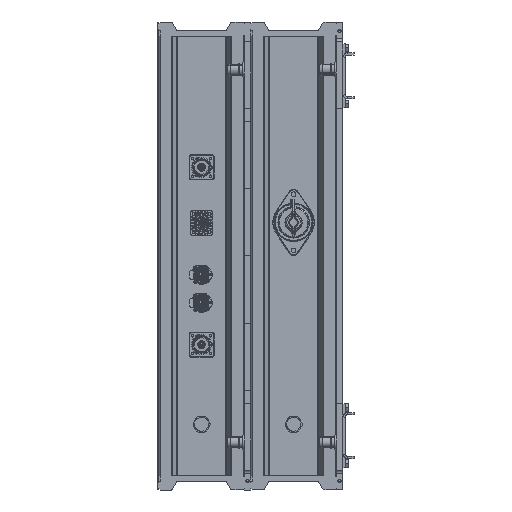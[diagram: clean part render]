
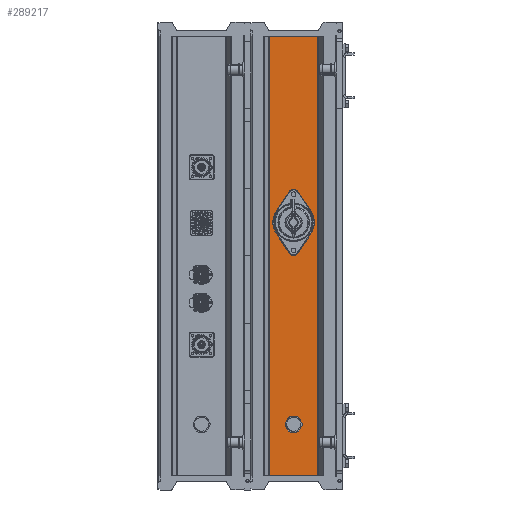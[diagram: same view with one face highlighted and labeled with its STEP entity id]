
A CAD part, left-side view. The second image highlights one B-rep face of the part: STEP entity #289217.
In plain terms, the highlighted planar face has unit normal (-1, 0, 0).
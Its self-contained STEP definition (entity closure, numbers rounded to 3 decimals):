
#918 = CARTESIAN_POINT ( 'NONE',  ( -1142.5, 81.956, 4.46 ) ) ;
#1755 = DIRECTION ( 'NONE',  ( -1., 0., 0. ) ) ;
#12885 = CARTESIAN_POINT ( 'NONE',  ( -1142.5, 74.5, 109.5 ) ) ;
#15743 = FACE_BOUND ( 'NONE', #270316, .T. ) ;
#16281 = ORIENTED_EDGE ( 'NONE', *, *, #172006, .T. ) ;
#19024 = VERTEX_POINT ( 'NONE', #283673 ) ;
#26600 = CARTESIAN_POINT ( 'NONE',  ( -1142.5, 74.5, 9.5 ) ) ;
#26770 = CARTESIAN_POINT ( 'NONE',  ( -1142.5, 117.685, 391.5 ) ) ;
#37729 = VERTEX_POINT ( 'NONE', #172011 ) ;
#37767 = VERTEX_POINT ( 'NONE', #26770 ) ;
#42768 = VECTOR ( 'NONE', #148550, 1000. ) ;
#45851 = EDGE_CURVE ( 'NONE', #284937, #49574, #97008, .T. ) ;
#46309 = EDGE_CURVE ( 'NONE', #37767, #114064, #274364, .T. ) ;
#49574 = VERTEX_POINT ( 'NONE', #51751 ) ;
#49858 = EDGE_CURVE ( 'NONE', #37729, #93888, #51167, .T. ) ;
#51167 = LINE ( 'NONE', #295167, #42768 ) ;
#51751 = CARTESIAN_POINT ( 'NONE',  ( -1142.5, 67.044, 114.54 ) ) ;
#54088 = EDGE_LOOP ( 'NONE', ( #222577, #16281, #261531, #247201 ) ) ;
#54391 = ORIENTED_EDGE ( 'NONE', *, *, #283163, .F. ) ;
#55552 = CARTESIAN_POINT ( 'NONE',  ( -1142.5, 105.154, 38.78 ) ) ;
#58529 = VERTEX_POINT ( 'NONE', #122464 ) ;
#60410 = ORIENTED_EDGE ( 'NONE', *, *, #49858, .F. ) ;
#61515 = EDGE_CURVE ( 'NONE', #58529, #19024, #235988, .T. ) ;
#61775 = VECTOR ( 'NONE', #168514, 1000. ) ;
#71627 = LINE ( 'NONE', #196142, #247000 ) ;
#73086 = DIRECTION ( 'NONE',  ( 0., 0.56, 0.828 ) ) ;
#74716 = CIRCLE ( 'NONE', #237667, 37. ) ;
#84635 = CARTESIAN_POINT ( 'NONE',  ( -1142.5, 31.315, -392.5 ) ) ;
#93888 = VERTEX_POINT ( 'NONE', #122992 ) ;
#95327 = DIRECTION ( 'NONE',  ( 0., 0.56, -0.828 ) ) ;
#96914 = AXIS2_PLACEMENT_3D ( 'NONE', #26600, #149515, #246687 ) ;
#97008 = LINE ( 'NONE', #192806, #111109 ) ;
#97794 = EDGE_CURVE ( 'NONE', #118972, #265723, #199967, .T. ) ;
#100050 = CARTESIAN_POINT ( 'NONE',  ( -1142.5, 105.154, 80.22 ) ) ;
#101156 = EDGE_CURVE ( 'NONE', #313944, #168861, #128974, .T. ) ;
#101895 = DIRECTION ( 'NONE',  ( 0., -0.56, -0.828 ) ) ;
#107800 = DIRECTION ( 'NONE',  ( 0., 0., -1. ) ) ;
#108860 = DIRECTION ( 'NONE',  ( -1., 0., 0. ) ) ;
#109036 = DIRECTION ( 'NONE',  ( -1., 0., 0. ) ) ;
#111109 = VECTOR ( 'NONE', #73086, 1000. ) ;
#112322 = DIRECTION ( 'NONE',  ( 0., 1., 0. ) ) ;
#113162 = CARTESIAN_POINT ( 'NONE',  ( -1142.5, 1872.341, -402.5 ) ) ;
#114064 = VERTEX_POINT ( 'NONE', #155116 ) ;
#117294 = VERTEX_POINT ( 'NONE', #306417 ) ;
#118972 = VERTEX_POINT ( 'NONE', #84635 ) ;
#122199 = EDGE_CURVE ( 'NONE', #93888, #284937, #260672, .T. ) ;
#122464 = CARTESIAN_POINT ( 'NONE',  ( -1142.5, 105.154, 80.22 ) ) ;
#122992 = CARTESIAN_POINT ( 'NONE',  ( -1142.5, 43.846, 38.78 ) ) ;
#128067 = CARTESIAN_POINT ( 'NONE',  ( -1142.5, 74.5, 59.5 ) ) ;
#128974 = LINE ( 'NONE', #55552, #226568 ) ;
#129230 = DIRECTION ( 'NONE',  ( 0., -1., 0. ) ) ;
#129524 = VECTOR ( 'NONE', #107800, 1000. ) ;
#135468 = DIRECTION ( 'NONE',  ( 0., 1., 0. ) ) ;
#137009 = FACE_BOUND ( 'NONE', #228547, .T. ) ;
#137318 = AXIS2_PLACEMENT_3D ( 'NONE', #213792, #109036, #206416 ) ;
#137741 = DIRECTION ( 'NONE',  ( -1., 0., 0. ) ) ;
#138580 = FACE_OUTER_BOUND ( 'NONE', #54088, .T. ) ;
#139312 = CARTESIAN_POINT ( 'NONE',  ( -1142.5, 74.5, 59.5 ) ) ;
#148550 = DIRECTION ( 'NONE',  ( 0., -0.56, 0.828 ) ) ;
#148657 = CARTESIAN_POINT ( 'NONE',  ( -1142.5, 74.5, 59.5 ) ) ;
#149515 = DIRECTION ( 'NONE',  ( -1., 0., 0. ) ) ;
#149805 = DIRECTION ( 'NONE',  ( 0., 0., 1. ) ) ;
#155116 = CARTESIAN_POINT ( 'NONE',  ( -1142.5, 31.315, 391.5 ) ) ;
#158332 = DIRECTION ( 'NONE',  ( 0., -1., 0. ) ) ;
#159389 = VERTEX_POINT ( 'NONE', #244152 ) ;
#163477 = AXIS2_PLACEMENT_3D ( 'NONE', #113162, #164108, #135468 ) ;
#164108 = DIRECTION ( 'NONE',  ( 1., 0., 0. ) ) ;
#165359 = CARTESIAN_POINT ( 'NONE',  ( -1142.5, 1872.341, -392.5 ) ) ;
#167902 = CARTESIAN_POINT ( 'NONE',  ( -1142.5, 74.5, -300.5 ) ) ;
#168514 = DIRECTION ( 'NONE',  ( 0., 1., 0. ) ) ;
#168861 = VERTEX_POINT ( 'NONE', #918 ) ;
#172006 = EDGE_CURVE ( 'NONE', #37767, #265723, #233709, .T. ) ;
#172011 = CARTESIAN_POINT ( 'NONE',  ( -1142.5, 67.044, 4.46 ) ) ;
#172801 = ORIENTED_EDGE ( 'NONE', *, *, #45851, .F. ) ;
#176214 = VECTOR ( 'NONE', #95327, 1000. ) ;
#179026 = CARTESIAN_POINT ( 'NONE',  ( -1142.5, 43.846, 80.22 ) ) ;
#186135 = CARTESIAN_POINT ( 'NONE',  ( -1142.5, 117.685, -392.5 ) ) ;
#190306 = DIRECTION ( 'NONE',  ( 0., 1., 0. ) ) ;
#192806 = CARTESIAN_POINT ( 'NONE',  ( -1142.5, 43.846, 80.22 ) ) ;
#196142 = CARTESIAN_POINT ( 'NONE',  ( -1142.5, 31.315, 391.5 ) ) ;
#199967 = LINE ( 'NONE', #165359, #61775 ) ;
#205827 = CARTESIAN_POINT ( 'NONE',  ( -1142.5, 1872.341, 391.5 ) ) ;
#206416 = DIRECTION ( 'NONE',  ( 0., 1., 0. ) ) ;
#210106 = ORIENTED_EDGE ( 'NONE', *, *, #238596, .F. ) ;
#212029 = PLANE ( 'NONE',  #163477 ) ;
#213071 = ORIENTED_EDGE ( 'NONE', *, *, #61515, .F. ) ;
#213792 = CARTESIAN_POINT ( 'NONE',  ( -1142.5, 74.5, -300.5 ) ) ;
#215526 = AXIS2_PLACEMENT_3D ( 'NONE', #128067, #108860, #158332 ) ;
#216438 = CARTESIAN_POINT ( 'NONE',  ( -1142.5, 105.154, 38.78 ) ) ;
#218852 = DIRECTION ( 'NONE',  ( -1., 0., 0. ) ) ;
#220769 = CIRCLE ( 'NONE', #312464, 14. ) ;
#221247 = LINE ( 'NONE', #100050, #176214 ) ;
#222176 = EDGE_CURVE ( 'NONE', #118972, #114064, #71627, .T. ) ;
#222577 = ORIENTED_EDGE ( 'NONE', *, *, #46309, .F. ) ;
#223058 = EDGE_CURVE ( 'NONE', #19024, #313944, #74716, .T. ) ;
#225191 = AXIS2_PLACEMENT_3D ( 'NONE', #139312, #137741, #112322 ) ;
#226568 = VECTOR ( 'NONE', #101895, 1000. ) ;
#228346 = DIRECTION ( 'NONE',  ( 0., -1., 0. ) ) ;
#228478 = EDGE_CURVE ( 'NONE', #117294, #58529, #221247, .T. ) ;
#228547 = EDGE_LOOP ( 'NONE', ( #293882, #235075, #213071, #302571, #288213, #172801, #290996, #60410, #210106 ) ) ;
#233709 = LINE ( 'NONE', #259145, #129524 ) ;
#234076 = CIRCLE ( 'NONE', #137318, 14. ) ;
#235018 = VERTEX_POINT ( 'NONE', #310437 ) ;
#235075 = ORIENTED_EDGE ( 'NONE', *, *, #223058, .F. ) ;
#235988 = CIRCLE ( 'NONE', #215526, 37. ) ;
#237667 = AXIS2_PLACEMENT_3D ( 'NONE', #148657, #1755, #274525 ) ;
#238596 = EDGE_CURVE ( 'NONE', #168861, #37729, #290421, .T. ) ;
#244152 = CARTESIAN_POINT ( 'NONE',  ( -1142.5, 74.5, -286.5 ) ) ;
#246687 = DIRECTION ( 'NONE',  ( 0., 1., 0. ) ) ;
#247000 = VECTOR ( 'NONE', #149805, 1000. ) ;
#247201 = ORIENTED_EDGE ( 'NONE', *, *, #222176, .T. ) ;
#259145 = CARTESIAN_POINT ( 'NONE',  ( -1142.5, 117.685, -392.5 ) ) ;
#259188 = VECTOR ( 'NONE', #129230, 1000. ) ;
#260672 = CIRCLE ( 'NONE', #225191, 37. ) ;
#261531 = ORIENTED_EDGE ( 'NONE', *, *, #97794, .F. ) ;
#265723 = VERTEX_POINT ( 'NONE', #186135 ) ;
#270316 = EDGE_LOOP ( 'NONE', ( #54391, #292550 ) ) ;
#272546 = EDGE_CURVE ( 'NONE', #159389, #235018, #234076, .T. ) ;
#274364 = LINE ( 'NONE', #205827, #259188 ) ;
#274525 = DIRECTION ( 'NONE',  ( 0., -1., 0. ) ) ;
#277015 = CIRCLE ( 'NONE', #287237, 9. ) ;
#283163 = EDGE_CURVE ( 'NONE', #235018, #159389, #220769, .T. ) ;
#283673 = CARTESIAN_POINT ( 'NONE',  ( -1142.5, 111.5, 59.5 ) ) ;
#284937 = VERTEX_POINT ( 'NONE', #179026 ) ;
#287237 = AXIS2_PLACEMENT_3D ( 'NONE', #12885, #300074, #228346 ) ;
#288213 = ORIENTED_EDGE ( 'NONE', *, *, #315184, .F. ) ;
#289217 = ADVANCED_FACE ( 'NONE', ( #138580, #15743, #137009 ), #212029, .F. ) ;
#290421 = CIRCLE ( 'NONE', #96914, 9. ) ;
#290996 = ORIENTED_EDGE ( 'NONE', *, *, #122199, .F. ) ;
#292550 = ORIENTED_EDGE ( 'NONE', *, *, #272546, .F. ) ;
#293882 = ORIENTED_EDGE ( 'NONE', *, *, #101156, .F. ) ;
#295167 = CARTESIAN_POINT ( 'NONE',  ( -1142.5, 43.846, 38.78 ) ) ;
#300074 = DIRECTION ( 'NONE',  ( -1., 0., 0. ) ) ;
#302571 = ORIENTED_EDGE ( 'NONE', *, *, #228478, .F. ) ;
#306417 = CARTESIAN_POINT ( 'NONE',  ( -1142.5, 81.956, 114.54 ) ) ;
#310437 = CARTESIAN_POINT ( 'NONE',  ( -1142.5, 74.5, -314.5 ) ) ;
#312464 = AXIS2_PLACEMENT_3D ( 'NONE', #167902, #218852, #190306 ) ;
#313944 = VERTEX_POINT ( 'NONE', #216438 ) ;
#315184 = EDGE_CURVE ( 'NONE', #49574, #117294, #277015, .T. ) ;
